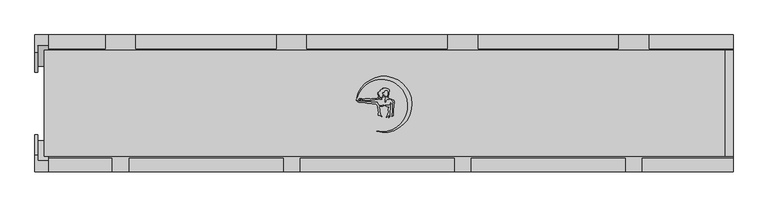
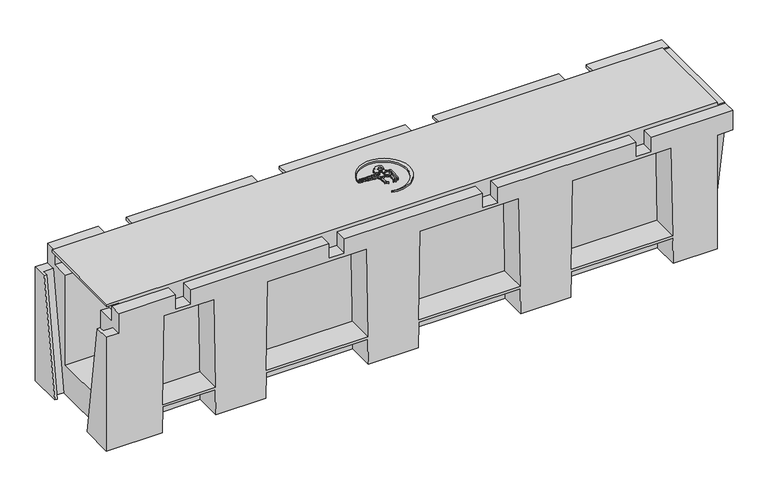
"""IFC4 building model written with IfcOpenShell, lengths in millimetres: cable carrier fitting geometry, Evotray with cover : Evotray type 1."""

from ifc_helpers import new_model, si_unit, point, frame, frame_2d, origin, place, context, project, spatial, polyline, circle_curve, trimmed, segment, composite_curve, outline, extrude, source, transform, mapped, element, save
from ifc_brep_helpers import plane_surface, cylinder_surface, revolved_surface, advanced_brep


def cable_carrier_fitting_8a8851dd(model_context):
    return source(origin(), model_context, "Body", "SolidModel", [
        extrude(outline(composite_curve([segment(polyline([(6.886285, 7.4637328), (8.3119761, 6.6406097), (7.6030447, 6.231308), (5.0381149, 6.231308), (2.5786216, 3.7718147), (2.5786216, 2.1881467), (1.5211076, 1.9047867), (1.1897405, 3.1414657), (1.5119619, 4.3440123), (1.5119619, 6.5708274), (2.9785026, 8.0373681), (2.5786216, 8.7299822), (1.5119619, 9.3458185), (0.65369, 9.841342), (-0.3394336, 10.8344656), (-0.3394336, 12.0845225), (0.4483607, 11.6296893), (1.5119619, 10.566088), (2.5786216, 9.9502518), (4.8913863, 9.9502518), (5.5232849, 10.5821504), (5.5232849, 12.1905551), (5.9291419, 12.89352), (6.1687119, 13.7876074), (6.1687119, 17.8830423), (5.5232849, 18.5284693), (1.5119619, 18.8794146), (0.7637978, 18.4474619), (0.3319493, 17.6994783), (0.1095558, 16.8694948), (-0.1631605, 15.3228433), (-0.7191823, 15.878865), (-1.2848381, 16.4445209), (-2.245373, 16.4445209), (-2.7198124, 15.6227677), (-2.7198124, 14.7978623), (-2.3177653, 14.1014963), (-1.5900706, 13.3738016), (-1.9867099, 11.8935234), (-2.3242099, 10.6339564), (-2.0214025, 8.91665), (-2.8221956, 8.7754486), (-4.5526409, 9.23912), (-5.7993501, 9.8204701), (-6.5526073, 10.1717197), (-8.1520559, 9.8896938), (-7.6844974, 10.6995287), (-6.0276764, 11.3025623)]), True, "CONTINUOUS"), segment(trimmed(circle_curve(frame_2d((-6.593804, 11.0306229)), 0.6280537), [point((-6.0276764, 11.3025623))], [point((-6.7493862, 11.639101))], True, "CARTESIAN"), True, "CONTINUOUS"), segment(polyline([(-6.7493862, 11.639101), (-8.6964013, 11.639101), (-8.1382232, 12.1972792), (-7.2874434, 12.5069377), (-6.4690039, 12.8048253)]), True, "CONTINUOUS"), segment(trimmed(circle_curve(frame_2d((-7.2073288, 12.8048253)), 0.7383249), [point((-6.4690039, 12.8048253))], [point((-7.2073288, 13.5431502))], True, "CARTESIAN"), True, "CONTINUOUS"), segment(polyline([(-7.2073288, 13.5431502), (-8.9150764, 13.5431502), (-9.306598, 14.2212855), (-7.4880059, 14.5419523), (-6.1916679, 15.0137808), (-6.8124206, 15.6345335), (-8.7756401, 15.6345335), (-8.2230577, 16.1871159), (-7.193225, 16.7816901), (-6.5185006, 17.4564145), (-5.7956833, 17.8737332), (-4.8206713, 18.4366567)]), True, "CONTINUOUS"), segment(trimmed(circle_curve(frame_2d((-5.0316567, 18.8020941)), 0.4219708), [point((-4.8206713, 18.4366567))], [point((-5.2426421, 19.1675315))], True, "CARTESIAN"), True, "CONTINUOUS"), segment(polyline([(-5.2426421, 19.1675315), (-4.6252454, 19.7849282), (-3.3225755, 20.2590613), (-2.3275189, 20.8335574), (-1.1959823, 21.0330779), (-1.5498081, 22.0052062), (3.4501919, 22.0052062), (4.4643658, 21.5322892), (5.5862207, 21.2316891), (6.6006668, 20.6459983), (7.7093433, 19.5373219), (7.7093433, 16.9713066), (7.2204261, 16.1244773), (7.2204261, 13.3924413), (6.7313912, 12.3437025), (6.3245893, 11.639101), (6.3245893, 9.7903367), (5.5232849, 9.3277034), (4.6900065, 9.1807739)]), True, "CONTINUOUS"), segment(trimmed(circle_curve(frame_2d((5.742958, 8.8986364)), 1.0900956), [point((4.6900065, 9.1807739))], [point((5.4608205, 7.8456849))], True, "CARTESIAN"), True, "CONTINUOUS"), segment(polyline([(5.4608205, 7.8456849), (6.886285, 7.4637328)]), True, "CONTINUOUS")], self_intersect=False)), frame((0.0, 0.0, 235.0), z_axis=(0.0, 0.0, 1.0), x_axis=(1.0, 0.0, 0.0)), (0.0, 0.0, 1.0), 2.5),
        extrude(outline(polyline([(11.4429943, 4.6087301), (9.5203503, 5.7187691), (10.7095904, 6.0374251), (12.0844458, 5.5370186), (14.2105949, 4.3094858), (14.6222444, 2.7731892), (14.6222444, 0.0), (14.2038635, -2.372756), (13.8777263, -11.712102), (13.8777263, -14.5669989), (13.3180784, -17.7409202), (12.1590543, -18.8999443), (11.2615657, -18.8999443), (11.9364399, -17.0457427), (12.2453954, -15.2935685), (12.7598527, -12.3759364), (12.7598527, -1.1364717), (13.2014873, 1.3681627), (12.6590105, 3.3927139), (11.4429943, 4.6087301)])), frame((0.0, 0.0, 235.0), z_axis=(0.0, 0.0, 1.0), x_axis=(1.0, 0.0, 0.0)), (0.0, 0.0, 1.0), 2.5),
        extrude(outline(composite_curve([segment(polyline([(4.0147453, -2.9992906), (5.9969468, -2.9992906), (7.4652111, -2.740396), (8.7704931, -1.435114), (9.950602, 1.0956376), (10.431554, -0.2257671), (9.8088462, -1.5611682), (9.1382387, -2.9992906), (9.1382387, -8.9574865), (8.7098596, -11.3869452), (8.7098596, -19.8680871), (7.2612009, -21.3167458), (6.6884637, -20.7440086), (7.3671837, -19.0016384), (7.6253291, -17.5376234)]), True, "CONTINUOUS"), segment(trimmed(circle_curve(frame_2d((7.210681, -17.5376234)), 0.414648), [point((7.6253291, -17.5376234))], [point((6.796033, -17.5376234))], True, "CARTESIAN"), True, "CONTINUOUS"), segment(polyline([(6.796033, -17.5376234), (6.0303442, -18.3033121), (4.7634977, -19.813081), (4.1079887, -20.4685901), (3.3156675, -20.0991246), (5.4798874, -16.8905367), (5.785797, -15.1556368), (6.6278549, -13.3498378), (6.8850624, -11.8911416), (6.0965537, -10.5254044), (6.0965537, -7.7588572), (7.4197021, -5.8893005)]), True, "CONTINUOUS"), segment(trimmed(circle_curve(frame_2d((7.0825972, -5.6507199)), 0.4129897), [point((7.4197021, -5.8893005))], [point((6.8440166, -5.3136149))], True, "CARTESIAN"), True, "CONTINUOUS"), segment(polyline([(6.8440166, -5.3136149), (4.8402016, -4.9602882), (3.396305, -4.2869882), (1.5763044, -3.438308), (1.5763044, -2.5693277), (4.0147453, -2.9992906)]), True, "CONTINUOUS")], self_intersect=False)), frame((0.0, 0.0, 235.0), z_axis=(0.0, 0.0, 1.0), x_axis=(1.0, 0.0, 0.0)), (0.0, 0.0, 1.0), 2.5),
        extrude(outline(composite_curve([segment(polyline([(-38.3968506, 3.809904), (-36.6611767, 3.000546), (-32.4747028, 3.000546), (-31.4039817, 3.2874448), (-30.0774441, 3.2874448), (-28.3563353, 3.000546), (-26.3500132, 2.4629536), (-25.1968251, 2.1539578), (-19.5049184, 2.1539578), (-16.8884225, 1.7178031), (-15.5608599, 1.3620838), (-9.9466176, 1.3620838)]), True, "CONTINUOUS"), segment(trimmed(circle_curve(frame_2d((-1.0930514, 4.2676903)), 9.3181642), [point((-9.9466176, 1.3620838))], [point((-6.5923499, -3.2546697))], True, "CARTESIAN"), True, "CONTINUOUS"), segment(polyline([(-6.5923499, -3.2546697), (-3.540565, -3.2546697), (-1.5059865, -3.0766672), (-0.3669825, -2.5455409), (-0.6245024, -3.5066183), (-1.5685967, -4.0516914), (-2.5272836, -4.4006249), (-5.7619887, -4.2876665), (-6.9506832, -4.720316), (-7.3596776, -5.5974072), (-7.284597, -6.4555824), (-6.8057129, -7.2850341), (-6.0851074, -8.0056396), (-6.0851074, -9.7618521), (-6.4504076, -10.7655063), (-6.306141, -12.4144812), (-5.8010487, -14.2995114), (-5.6529296, -15.9925206), (-3.2815945, -18.7204295), (-3.4902715, -19.9038953), (-6.0851074, -17.3090594), (-7.047939, -17.5670493), (-8.4511152, -17.3196315), (-8.1755548, -16.5625356), (-8.1755548, -14.2884801), (-7.999951, -13.2925813), (-8.1755548, -11.2854205), (-8.5512172, -10.2532964), (-8.5512172, -8.4281135), (-8.9975529, -7.4709435), (-8.9975529, -5.093194), (-9.2459932, -4.1660024), (-9.6979635, -3.3831668), (-10.1466753, -2.6059753), (-10.7611176, -1.9915329), (-11.1949689, -1.0611358), (-14.7959071, -0.9353883), (-17.1400591, -0.5446317), (-19.1726524, 0.0), (-22.514272, 0.3512184), (-24.5938851, 0.3512184), (-25.9361197, 0.7108691), (-27.4597147, 1.1191151), (-28.802968, 1.7454844), (-29.7973567, 1.7454844), (-32.4487971, 1.7454844), (-33.5610412, 1.4474595), (-35.4243232, 1.6432983), (-36.913398, 1.8915184), (-38.5867056, 2.6717946), (-39.5626319, 3.6477209), (-40.201715, 4.286804), (-40.201715, 5.0736837), (-38.3968506, 3.809904)]), True, "CONTINUOUS")], self_intersect=False)), frame((0.0, 0.0, 235.0), z_axis=(0.0, 0.0, 1.0), x_axis=(1.0, 0.0, 0.0)), (0.0, 0.0, 1.0), 2.5),
        extrude(outline(composite_curve([segment(polyline([(-35.8946179, 5.3538761), (-34.8713036, 4.7630653), (-36.5989641, 5.2827362), (-36.9291106, 6.2002999), (-36.0907862, 7.0386243), (-33.2179676, 7.0386243), (-32.2335306, 6.640886), (-31.1430419, 6.2002999), (-30.3448483, 5.7394627), (-29.0846182, 5.7394627), (-28.2635931, 6.0348738), (-27.3783409, 6.5459745), (-20.9646359, 6.5459745), (-20.1090613, 6.2002999), (-19.0386593, 6.2002999), (-18.0779391, 6.5459745), (-16.8987824, 6.5459745), (-16.1804433, 6.9607077), (-10.7677881, 6.9607077), (-10.0075074, 7.2342626), (-8.7653494, 7.2342626), (-8.1895809, 7.8100311), (-6.2320175, 7.8100311), (-4.9440164, 7.2896449), (-3.9321, 6.7054147), (-3.1276589, 6.3803994)]), True, "CONTINUOUS"), segment(trimmed(circle_curve(frame_2d((-3.5349913, 6.2158265)), 0.4393221), [point((-3.1276589, 6.3803994))], [point((-3.6995642, 5.8084941))], False, "CARTESIAN"), True, "CONTINUOUS"), segment(polyline([(-3.6995642, 5.8084941), (-4.7152929, 6.2188751), (-6.0269507, 6.2188751), (-7.2973806, 6.4428862), (-8.109405, 6.1507135), (-9.252379, 5.7394627), (-12.5965769, 5.7394627), (-13.3876503, 5.2827362), (-16.9549705, 5.2827362), (-17.8378329, 4.7730154), (-27.8378329, 4.7730154), (-30.448497, 4.5446119), (-34.1370246, 6.0348738), (-36.2877922, 6.0348738), (-35.8946179, 5.3538761)]), True, "CONTINUOUS")], self_intersect=False)), frame((0.0, 0.0, 235.0), z_axis=(0.0, 0.0, 1.0), x_axis=(1.0, 0.0, 0.0)), (0.0, 0.0, 1.0), 2.5),
        extrude(outline(composite_curve([segment(trimmed(circle_curve(frame_2d((-3.3143579, -3.3159585)), 38.3616107), [point((-10.7221947, -40.9555272))], [point((-40.0258932, 7.814017))], True, "CARTESIAN"), True, "CONTINUOUS"), segment(trimmed(circle_curve(frame_2d((-0.1849572, -1.4356248)), 40.900563), [point((-40.0258932, 7.814017))], [point((-10.7221947, -40.9555272))], False, "CARTESIAN"), True, "CONTINUOUS")], self_intersect=False)), frame((0.0, 0.0, 235.0), z_axis=(0.0, 0.0, 1.0), x_axis=(1.0, 0.0, 0.0)), (0.0, 0.0, 1.0), 2.5),
        advanced_brep(
        [(510.0, 77.5, 205.0), (510.0, -77.5, 205.0), (-476.0, -77.5, 205.0), (-476.0, 77.5, 205.0), (-496.0, 77.5, 230.0), (-496.0, -77.5, 230.0), (-496.0, -77.5, 234.0), (-496.0, 77.5, 234.0), (510.0, -77.5, 230.0), (498.0, -77.5, 230.0), (498.0, -77.5, 234.0), (-476.0, -77.5, 230.0), (510.0, 77.5, 230.0), (-476.0, 77.5, 230.0), (498.0, 77.5, 234.0), (498.0, 77.5, 230.0)],
        [
            (0, 1),
            (1, 2),
            (2, 3),
            (3, 0),
            (4, 5),
            (5, 6),
            (6, 7, circle_curve(frame((-496.0, 0.0, -748.995295), z_axis=(-1.0, 0.0, 0.0), x_axis=(0.0, 1.0, 0.0)), 986.0456379)),
            (7, 4),
            (1, 8),
            (8, 9),
            (9, 10),
            (10, 6),
            (5, 11),
            (11, 2),
            (0, 12),
            (12, 8),
            (3, 13),
            (13, 4),
            (7, 14),
            (14, 15),
            (15, 12),
            (13, 11),
            (15, 9),
            (14, 10, circle_curve(frame((498.0, 0.0, -748.995295), z_axis=(1.0, 0.0, 0.0), x_axis=(0.0, 1.0, 0.0)), 986.0456379)),
        ],
        [
            plane_surface(frame((-496.0, 77.5, 205.0), z_axis=(0.0, 0.0, -1.0), x_axis=(0.0, 1.0, 0.0))),
            plane_surface(frame((-496.0, 77.5, 246.0), z_axis=(-1.0, 0.0, 0.0), x_axis=(0.0, 0.0, -1.0))),
            plane_surface(frame((-496.0, -77.5, 246.0), z_axis=(0.0, -1.0, 0.0), x_axis=(0.0, 0.0, -1.0))),
            plane_surface(frame((510.0, -77.5, 246.0), z_axis=(1.0, 0.0, 0.0), x_axis=(0.0, 0.0, -1.0))),
            plane_surface(frame((510.0, 77.5, 246.0), z_axis=(0.0, 1.0, 0.0), x_axis=(0.0, 0.0, -1.0))),
            plane_surface(frame((-496.0, 77.5, 230.0), z_axis=(0.0, 0.0, -1.0), x_axis=(-1.0, 0.0, 0.0))),
            plane_surface(frame((-476.0, -77.5, 230.0), z_axis=(-1.0, 0.0, 0.0), x_axis=(0.0, 0.0, -1.0))),
            plane_surface(frame((498.0, 77.5, 230.0), z_axis=(0.0, 0.0, 1.0), x_axis=(0.0, 1.0, 0.0))),
            plane_surface(frame((498.0, 77.5, 246.0), z_axis=(1.0, 0.0, 0.0), x_axis=(0.0, 0.0, -1.0))),
            cylinder_surface(frame((-496.0, 0.0, -748.995295), z_axis=(-1.0, 0.0, 0.0), x_axis=(0.0, 1.0, 0.0)), 986.0456379),
        ],
        [
            (0, [[1, 2, 3, 4]]),
            (1, [[5, 6, 7, 8]]),
            (2, [[-2, 9, 10, 11, 12, -6, 13, 14]]),
            (3, [[-1, 15, 16, -9]]),
            (4, [[-4, 17, 18, -8, 19, 20, 21, -15]]),
            (5, [[22, -13, -5, -18]]),
            (6, [[-22, -17, -3, -14]]),
            (7, [[23, -10, -16, -21]]),
            (8, [[-23, -20, 24, -11]]),
            (9, [[-7, -12, -24, -19]]),
        ],
    ),
        advanced_brep(
        [(510.0, 80.0, 230.0), (510.0, 100.0, 230.0), (387.5, 100.0, 230.0), (387.5, 80.0, 230.0), (510.0, -100.0, 230.0), (510.0, -80.0, 230.0), (377.5, -80.0, 230.0), (377.5, -100.0, 230.0), (-157.5, 100.0, 230.0), (-362.5, 100.0, 230.0), (-362.5, 80.0, 230.0), (-157.5, 80.0, 230.0), (92.5, 100.0, 230.0), (-112.5, 100.0, 230.0), (-112.5, 80.0, 230.0), (92.5, 80.0, 230.0), (342.5, 100.0, 230.0), (137.5, 100.0, 230.0), (137.5, 80.0, 230.0), (342.5, 80.0, 230.0), (-490.0, 80.0, 230.0), (-407.5, 80.0, 230.0), (-407.5, 100.0, 230.0), (-490.0, 100.0, 230.0), (-490.0, -80.0, 230.0), (-490.0, -100.0, 230.0), (-397.5, -100.0, 230.0), (-397.5, -80.0, 230.0), (-147.5, -80.0, 230.0), (-372.5, -80.0, 230.0), (-372.5, -100.0, 230.0), (-147.5, -100.0, 230.0), (102.5, -80.0, 230.0), (-122.5, -80.0, 230.0), (-122.5, -100.0, 230.0), (102.5, -100.0, 230.0), (352.5, -80.0, 230.0), (127.5, -80.0, 230.0), (127.5, -100.0, 230.0), (352.5, -100.0, 230.0), (-510.0, 45.4, 0.0), (-510.0, 100.0, 0.0), (-381.1, 100.0, 0.0), (-381.1, 56.0, 0.0), (-214.1, 56.0, 0.0), (-214.1, 100.0, 0.0), (-132.8, 100.0, 0.0), (-132.8, 56.0, 0.0), (34.2, 56.0, 0.0), (34.2, 100.0, 0.0), (115.5, 100.0, 0.0), (115.5, 56.0, 0.0), (282.5, 56.0, 0.0), (282.5, 100.0, 0.0), (363.8, 100.0, 0.0), (363.8, 56.0, 0.0), (450.8, 56.0, 0.0), (450.8, 100.0, 0.0), (485.0, 100.0, 0.0), (485.0, -100.0, 0.0), (413.1, -100.0, 0.0), (413.1, -56.0, 0.0), (246.1, -56.0, 0.0), (246.1, -100.0, 0.0), (164.8, -100.0, 0.0), (164.8, -56.0, 0.0), (-2.2, -56.0, 0.0), (-2.2, -100.0, 0.0), (-83.5, -100.0, 0.0), (-83.5, -56.0, 0.0), (-250.5, -56.0, 0.0), (-250.5, -100.0, 0.0), (-331.8, -100.0, 0.0), (-331.8, -56.0, 0.0), (-418.8, -56.0, 0.0), (-418.8, -100.0, 0.0), (-510.0, -100.0, 0.0), (-510.0, -45.5, 0.0), (-506.0, -45.5, 0.0), (-506.0, -54.6, 0.0), (-490.0, -54.6, 0.0), (-490.0, 54.6, 0.0), (-506.0, 54.6, 0.0), (-506.0, 45.4, 0.0), (-451.0, -27.5, 0.0), (-429.0, -27.5, 0.0), (-206.0, 27.5, 0.0), (-184.0, 27.5, 0.0), (449.0, 27.5, 0.0), (471.0, 27.5, 0.0), (204.0, -27.5, 0.0), (226.0, -27.5, 0.0), (497.0, 45.4, 0.0), (510.0, 45.4, 0.0), (510.0, -45.4, 0.0), (497.0, -45.4, 0.0), (510.0, 100.0, 196.0), (485.0, 100.0, 196.0), (450.0, 100.0, 44.0), (364.6, 100.0, 44.0), (281.7, 100.0, 44.0), (116.3, 100.0, 44.0), (33.4, 100.0, 44.0), (-132.0, 100.0, 44.0), (-214.9, 100.0, 44.0), (-380.3, 100.0, 44.0), (-510.0, 100.0, 196.0), (-490.0, 100.0, 196.0), (-407.5, 100.0, 205.0), (-337.5, 100.0, 205.0), (-337.5, 100.0, 225.0), (-362.5, 100.0, 225.0), (-157.5, 100.0, 205.0), (-87.5, 100.0, 205.0), (-87.5, 100.0, 225.0), (-112.5, 100.0, 225.0), (92.5, 100.0, 205.0), (162.5, 100.0, 205.0), (162.5, 100.0, 225.0), (137.5, 100.0, 225.0), (342.5, 100.0, 205.0), (412.5, 100.0, 205.0), (412.5, 100.0, 225.0), (387.5, 100.0, 225.0), (447.3, 100.0, 200.0), (367.3, 100.0, 200.0), (364.6, 100.0, 48.0), (450.0, 100.0, 48.0), (279.0, 100.0, 200.0), (119.0, 100.0, 200.0), (116.3, 100.0, 48.0), (281.7, 100.0, 48.0), (30.7, 100.0, 200.0), (-129.3, 100.0, 200.0), (-132.0, 100.0, 48.0), (33.4, 100.0, 48.0), (-217.6, 100.0, 200.0), (-377.6, 100.0, 200.0), (-380.3, 100.0, 48.0), (-214.9, 100.0, 48.0), (-510.0, 74.8852174, 196.0), (-510.0, -100.0, 196.0), (-510.0, -74.9, 196.0), (510.0, -100.0, 196.0), (377.5, -100.0, 205.0), (352.5, -100.0, 205.0), (127.5, -100.0, 205.0), (102.5, -100.0, 205.0), (-122.5, -100.0, 205.0), (-147.5, -100.0, 205.0), (-372.5, -100.0, 205.0), (-397.5, -100.0, 205.0), (-490.0, -100.0, 196.0), (-418.0, -100.0, 44.0), (-332.6, -100.0, 44.0), (-249.7, -100.0, 44.0), (-84.3, -100.0, 44.0), (-1.4, -100.0, 44.0), (164.0, -100.0, 44.0), (246.9, -100.0, 44.0), (412.3, -100.0, 44.0), (485.0, -100.0, 196.0), (-415.3, -100.0, 200.0), (-335.3, -100.0, 200.0), (-332.6, -100.0, 48.0), (-418.0, -100.0, 48.0), (-247.0, -100.0, 200.0), (-87.0, -100.0, 200.0), (-84.3, -100.0, 48.0), (-249.7, -100.0, 48.0), (1.3, -100.0, 200.0), (161.3, -100.0, 200.0), (164.0, -100.0, 48.0), (-1.4, -100.0, 48.0), (249.6, -100.0, 200.0), (409.6, -100.0, 200.0), (412.3, -100.0, 48.0), (246.9, -100.0, 48.0), (510.0, 80.0, 205.0), (510.0, 50.0, 205.0), (510.0, 50.0, 50.0), (510.0, -50.0, 50.0), (510.0, -50.0, 205.0), (510.0, -80.0, 205.0), (510.0, -80.0, 196.0), (510.0, 80.0, 196.0), (-506.0, 74.8852174, 196.0), (-506.0, -74.9, 196.0), (-490.0, 84.0, 196.0), (-506.0, 84.0, 196.0), (-506.0, -84.0852174, 196.0), (-490.0, -84.0852174, 196.0), (-490.0, -80.0, 205.0), (-490.0, -77.5, 205.0), (-490.0, -50.0, 205.0), (-490.0, -50.0, 50.0), (-490.0, 50.0, 50.0), (-490.0, 50.0, 205.0), (-490.0, 77.5, 205.0), (-490.0, 80.0, 205.0), (412.5, 80.0, 205.0), (342.5, 80.0, 205.0), (162.5, 80.0, 205.0), (92.5, 80.0, 205.0), (-87.5, 80.0, 205.0), (-157.5, 80.0, 205.0), (-337.5, 80.0, 205.0), (-407.5, 80.0, 205.0), (-476.0, 50.0, 205.0), (-476.0, -50.0, 205.0), (-397.5, -80.0, 205.0), (-372.5, -80.0, 205.0), (-147.5, -80.0, 205.0), (-122.5, -80.0, 205.0), (102.5, -80.0, 205.0), (127.5, -80.0, 205.0), (352.5, -80.0, 205.0), (377.5, -80.0, 205.0), (-362.5, 80.0, 225.0), (-337.5, 80.0, 225.0), (-112.5, 80.0, 225.0), (-87.5, 80.0, 225.0), (137.5, 80.0, 225.0), (162.5, 80.0, 225.0), (387.5, 80.0, 225.0), (412.5, 80.0, 225.0), (-429.0, -27.5, 50.0), (-451.0, -27.5, 50.0), (-184.0, 27.5, 50.0), (-206.0, 27.5, 50.0), (471.0, 27.5, 50.0), (449.0, 27.5, 50.0), (226.0, -27.5, 50.0), (204.0, -27.5, 50.0), (497.0, 80.0, 196.0), (497.0, 77.6, 196.0), (485.0, 77.6, 196.0), (497.0, -80.0, 196.0), (485.0, -77.6, 196.0), (497.0, -77.6, 196.0), (497.0, -48.2959184, 30.0), (497.0, 48.2959184, 30.0), (485.0, -48.2959184, 30.0), (485.0, 48.2959184, 30.0), (-418.0, -56.0, 44.0), (-332.6, -56.0, 44.0), (-335.3, -56.0, 200.0), (-415.3, -56.0, 200.0), (-332.6, -56.0, 48.0), (-418.0, -56.0, 48.0), (450.0, 56.0, 44.0), (364.6, 56.0, 44.0), (447.3, 56.0, 200.0), (367.3, 56.0, 200.0), (364.6, 56.0, 48.0), (450.0, 56.0, 48.0), (-84.3, -56.0, 44.0), (-249.7, -56.0, 44.0), (-87.0, -56.0, 200.0), (-247.0, -56.0, 200.0), (-84.3, -56.0, 48.0), (-249.7, -56.0, 48.0), (164.0, -56.0, 44.0), (-1.4, -56.0, 44.0), (161.3, -56.0, 200.0), (1.3, -56.0, 200.0), (164.0, -56.0, 48.0), (-1.4, -56.0, 48.0), (412.3, -56.0, 44.0), (246.9, -56.0, 44.0), (409.6, -56.0, 200.0), (249.6, -56.0, 200.0), (412.3, -56.0, 48.0), (246.9, -56.0, 48.0), (281.7, 56.0, 44.0), (116.3, 56.0, 44.0), (279.0, 56.0, 200.0), (119.0, 56.0, 200.0), (116.3, 56.0, 48.0), (281.7, 56.0, 48.0), (33.4, 56.0, 44.0), (-132.0, 56.0, 44.0), (30.7, 56.0, 200.0), (-129.3, 56.0, 200.0), (-132.0, 56.0, 48.0), (33.4, 56.0, 48.0), (-214.9, 56.0, 44.0), (-380.3, 56.0, 44.0), (-217.6, 56.0, 200.0), (-377.6, 56.0, 200.0), (-380.3, 56.0, 48.0), (-214.9, 56.0, 48.0)],
        [
            (0, 1),
            (1, 2),
            (2, 3),
            (3, 0),
            (4, 5),
            (5, 6),
            (6, 7),
            (7, 4),
            (8, 9),
            (9, 10),
            (10, 11),
            (11, 8),
            (12, 13),
            (13, 14),
            (14, 15),
            (15, 12),
            (16, 17),
            (17, 18),
            (18, 19),
            (19, 16),
            (20, 21),
            (21, 22),
            (22, 23),
            (23, 20),
            (24, 25),
            (25, 26),
            (26, 27),
            (27, 24),
            (28, 29),
            (29, 30),
            (30, 31),
            (31, 28),
            (32, 33),
            (33, 34),
            (34, 35),
            (35, 32),
            (36, 37),
            (37, 38),
            (38, 39),
            (39, 36),
            (40, 41),
            (41, 42),
            (42, 43),
            (43, 44),
            (44, 45),
            (45, 46),
            (46, 47),
            (47, 48),
            (48, 49),
            (49, 50),
            (50, 51),
            (51, 52),
            (52, 53),
            (53, 54),
            (54, 55),
            (55, 56),
            (56, 57),
            (57, 58),
            (58, 59),
            (59, 60),
            (60, 61),
            (61, 62),
            (62, 63),
            (63, 64),
            (64, 65),
            (65, 66),
            (66, 67),
            (67, 68),
            (68, 69),
            (69, 70),
            (70, 71),
            (71, 72),
            (72, 73),
            (73, 74),
            (74, 75),
            (75, 76),
            (76, 77),
            (77, 78),
            (78, 79),
            (79, 80),
            (80, 81),
            (81, 82),
            (82, 83),
            (83, 40),
            (84, 85, circle_curve(frame((-440.0, -27.5, 0.0), z_axis=(0.0, 0.0, 1.0), x_axis=(1.0, 0.0, 0.0)), 11.0)),
            (85, 84, circle_curve(frame((-440.0, -27.5, 0.0), z_axis=(0.0, 0.0, 1.0), x_axis=(1.0, 0.0, 0.0)), 11.0)),
            (86, 87, circle_curve(frame((-195.0, 27.5, 0.0), z_axis=(0.0, 0.0, 1.0), x_axis=(1.0, 0.0, 0.0)), 11.0)),
            (87, 86, circle_curve(frame((-195.0, 27.5, 0.0), z_axis=(0.0, 0.0, 1.0), x_axis=(1.0, 0.0, 0.0)), 11.0)),
            (88, 89, circle_curve(frame((460.0, 27.5, 0.0), z_axis=(0.0, 0.0, 1.0), x_axis=(1.0, 0.0, 0.0)), 11.0)),
            (89, 88, circle_curve(frame((460.0, 27.5, 0.0), z_axis=(0.0, 0.0, 1.0), x_axis=(1.0, 0.0, 0.0)), 11.0)),
            (90, 91, circle_curve(frame((215.0, -27.5, 0.0), z_axis=(0.0, 0.0, 1.0), x_axis=(1.0, 0.0, 0.0)), 11.0)),
            (91, 90, circle_curve(frame((215.0, -27.5, 0.0), z_axis=(0.0, 0.0, 1.0), x_axis=(1.0, 0.0, 0.0)), 11.0)),
            (92, 93),
            (93, 94),
            (94, 95),
            (95, 92),
            (1, 96),
            (96, 97),
            (97, 58),
            (57, 98),
            (98, 99),
            (99, 54),
            (53, 100),
            (100, 101),
            (101, 50),
            (49, 102),
            (102, 103),
            (103, 46),
            (45, 104),
            (104, 105),
            (105, 42),
            (41, 106),
            (106, 107),
            (107, 23),
            (22, 108),
            (108, 109),
            (109, 110),
            (110, 111),
            (111, 9),
            (8, 112),
            (112, 113),
            (113, 114),
            (114, 115),
            (115, 13),
            (12, 116),
            (116, 117),
            (117, 118),
            (118, 119),
            (119, 17),
            (16, 120),
            (120, 121),
            (121, 122),
            (122, 123),
            (123, 2),
            (124, 125),
            (125, 126),
            (126, 127),
            (127, 124),
            (128, 129),
            (129, 130),
            (130, 131),
            (131, 128),
            (132, 133),
            (133, 134),
            (134, 135),
            (135, 132),
            (136, 137),
            (137, 138),
            (138, 139),
            (139, 136),
            (40, 140),
            (140, 106),
            (76, 141),
            (141, 142),
            (142, 77),
            (143, 4),
            (7, 144),
            (144, 145),
            (145, 39),
            (38, 146),
            (146, 147),
            (147, 35),
            (34, 148),
            (148, 149),
            (149, 31),
            (30, 150),
            (150, 151),
            (151, 26),
            (25, 152),
            (152, 141),
            (75, 153),
            (153, 154),
            (154, 72),
            (71, 155),
            (155, 156),
            (156, 68),
            (67, 157),
            (157, 158),
            (158, 64),
            (63, 159),
            (159, 160),
            (160, 60),
            (59, 161),
            (161, 143),
            (162, 163),
            (163, 164),
            (164, 165),
            (165, 162),
            (166, 167),
            (167, 168),
            (168, 169),
            (169, 166),
            (170, 171),
            (171, 172),
            (172, 173),
            (173, 170),
            (174, 175),
            (175, 176),
            (176, 177),
            (177, 174),
            (0, 178),
            (178, 179),
            (179, 180),
            (180, 181),
            (181, 182),
            (182, 183),
            (183, 5),
            (143, 184),
            (184, 94),
            (93, 185),
            (185, 96),
            (83, 186),
            (186, 140),
            (142, 187),
            (187, 78),
            (81, 188),
            (188, 189),
            (189, 82),
            (187, 190),
            (190, 79),
            (189, 186),
            (190, 191),
            (191, 80),
            (191, 152),
            (24, 192),
            (192, 193),
            (193, 194),
            (194, 195),
            (195, 196),
            (196, 197),
            (197, 198),
            (198, 199),
            (199, 20),
            (107, 188),
            (178, 200),
            (200, 121),
            (120, 201),
            (201, 202),
            (202, 117),
            (116, 203),
            (203, 204),
            (204, 113),
            (112, 205),
            (205, 206),
            (206, 109),
            (108, 207),
            (207, 199),
            (197, 208),
            (208, 179),
            (182, 209),
            (209, 194),
            (192, 210),
            (210, 151),
            (150, 211),
            (211, 212),
            (212, 149),
            (148, 213),
            (213, 214),
            (214, 147),
            (146, 215),
            (215, 216),
            (216, 145),
            (144, 217),
            (217, 183),
            (10, 218),
            (218, 219),
            (219, 206),
            (205, 11),
            (14, 220),
            (220, 221),
            (221, 204),
            (203, 15),
            (18, 222),
            (222, 223),
            (223, 202),
            (201, 19),
            (3, 224),
            (224, 225),
            (225, 200),
            (207, 21),
            (28, 212),
            (211, 29),
            (32, 214),
            (213, 33),
            (36, 216),
            (215, 37),
            (217, 6),
            (27, 210),
            (180, 196),
            (195, 181),
            (226, 227, circle_curve(frame((-440.0, -27.5, 50.0), z_axis=(0.0, 0.0, -1.0), x_axis=(1.0, 0.0, 0.0)), 11.0)),
            (227, 226, circle_curve(frame((-440.0, -27.5, 50.0), z_axis=(0.0, 0.0, -1.0), x_axis=(1.0, 0.0, 0.0)), 11.0)),
            (228, 229, circle_curve(frame((-195.0, 27.5, 50.0), z_axis=(0.0, 0.0, -1.0), x_axis=(1.0, 0.0, 0.0)), 11.0)),
            (229, 228, circle_curve(frame((-195.0, 27.5, 50.0), z_axis=(0.0, 0.0, -1.0), x_axis=(1.0, 0.0, 0.0)), 11.0)),
            (230, 231, circle_curve(frame((460.0, 27.5, 50.0), z_axis=(0.0, 0.0, -1.0), x_axis=(1.0, 0.0, 0.0)), 11.0)),
            (231, 230, circle_curve(frame((460.0, 27.5, 50.0), z_axis=(0.0, 0.0, -1.0), x_axis=(1.0, 0.0, 0.0)), 11.0)),
            (232, 233, circle_curve(frame((215.0, -27.5, 50.0), z_axis=(0.0, 0.0, -1.0), x_axis=(1.0, 0.0, 0.0)), 11.0)),
            (233, 232, circle_curve(frame((215.0, -27.5, 50.0), z_axis=(0.0, 0.0, -1.0), x_axis=(1.0, 0.0, 0.0)), 11.0)),
            (185, 234),
            (234, 235),
            (235, 236),
            (236, 97),
            (92, 234),
            (237, 184),
            (161, 238),
            (238, 239),
            (239, 237),
            (237, 95),
            (239, 240),
            (240, 241),
            (241, 235),
            (238, 242),
            (242, 240),
            (236, 243),
            (243, 242),
            (241, 243),
            (226, 85),
            (84, 227),
            (228, 87),
            (86, 229),
            (230, 89),
            (88, 231),
            (232, 91),
            (90, 233),
            (111, 218),
            (115, 220),
            (119, 222),
            (123, 224),
            (110, 219),
            (114, 221),
            (118, 223),
            (122, 225),
            (153, 244),
            (244, 245),
            (245, 154),
            (245, 73),
            (244, 74),
            (246, 163),
            (162, 247),
            (247, 246),
            (248, 249),
            (249, 165),
            (164, 248),
            (247, 249),
            (248, 246),
            (250, 251),
            (251, 99),
            (98, 250),
            (56, 250),
            (251, 55),
            (124, 252),
            (252, 253),
            (253, 125),
            (126, 254),
            (254, 255),
            (255, 127),
            (253, 254),
            (252, 255),
            (256, 156),
            (155, 257),
            (257, 256),
            (257, 70),
            (69, 256),
            (258, 167),
            (166, 259),
            (259, 258),
            (260, 261),
            (261, 169),
            (168, 260),
            (259, 261),
            (260, 258),
            (262, 158),
            (157, 263),
            (263, 262),
            (263, 66),
            (65, 262),
            (264, 171),
            (170, 265),
            (265, 264),
            (266, 267),
            (267, 173),
            (172, 266),
            (265, 267),
            (266, 264),
            (268, 160),
            (159, 269),
            (269, 268),
            (269, 62),
            (61, 268),
            (270, 175),
            (174, 271),
            (271, 270),
            (272, 273),
            (273, 177),
            (176, 272),
            (271, 273),
            (272, 270),
            (100, 274),
            (274, 275),
            (275, 101),
            (275, 51),
            (274, 52),
            (128, 276),
            (276, 277),
            (277, 129),
            (130, 278),
            (278, 279),
            (279, 131),
            (277, 278),
            (276, 279),
            (102, 280),
            (280, 281),
            (281, 103),
            (281, 47),
            (280, 48),
            (132, 282),
            (282, 283),
            (283, 133),
            (134, 284),
            (284, 285),
            (285, 135),
            (283, 284),
            (282, 285),
            (104, 286),
            (286, 287),
            (287, 105),
            (287, 43),
            (286, 44),
            (136, 288),
            (288, 289),
            (289, 137),
            (138, 290),
            (290, 291),
            (291, 139),
            (289, 290),
            (288, 291),
        ],
        [
            plane_surface(frame((-510.0, 100.0, 230.0), z_axis=(0.0, 0.0, 1.0), x_axis=(-1.0, 0.0, 0.0))),
            plane_surface(frame((-510.0, 100.0, 0.0), z_axis=(0.0, 0.0, -1.0), x_axis=(1.0, 0.0, 0.0))),
            plane_surface(frame((510.0, 100.0, 230.0), z_axis=(0.0, 1.0, 0.0), x_axis=(0.0, 0.0, -1.0))),
            plane_surface(frame((-510.0, 100.0, 230.0), z_axis=(-1.0, 0.0, 0.0), x_axis=(0.0, 0.0, -1.0))),
            plane_surface(frame((-510.0, -100.0, 230.0), z_axis=(0.0, -1.0, 0.0), x_axis=(0.0, 0.0, -1.0))),
            plane_surface(frame((510.0, -100.0, 230.0), z_axis=(1.0, 0.0, 0.0), x_axis=(0.0, 0.0, -1.0))),
            plane_surface(frame((-508.0, 45.4, 0.0), z_axis=(0.0, -0.9888731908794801, 0.14876092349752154), x_axis=(-1.0, 0.0, 0.0))),
            plane_surface(frame((-508.0, -45.5, 0.0), z_axis=(0.0, 0.9889363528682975, 0.14834045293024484), x_axis=(1.0, 0.0, 0.0))),
            plane_surface(frame((-498.0, 54.6, 0.0), z_axis=(0.0, -0.9889363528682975, 0.1483404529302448), x_axis=(-1.0, 0.0, 0.0))),
            plane_surface(frame((-506.0, 0.0, 0.0), z_axis=(1.0, 0.0, 0.0), x_axis=(0.0, -1.0, 0.0))),
            plane_surface(frame((-498.0, -54.6, 0.0), z_axis=(0.0, 0.9888731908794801, 0.1487609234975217), x_axis=(1.0, 0.0, 0.0))),
            plane_surface(frame((-490.0, 0.0, 0.0), z_axis=(-1.0, 0.0, 0.0), x_axis=(0.0, 1.0, 0.0))),
            plane_surface(frame((-490.0, 80.0, 205.0), z_axis=(0.0, 0.0, 1.0), x_axis=(1.0, 0.0, 0.0))),
            plane_surface(frame((510.0, 80.0, 230.0), z_axis=(0.0, -1.0, 0.0), x_axis=(0.0, 0.0, -1.0))),
            plane_surface(frame((-490.0, -80.0, 230.0), z_axis=(0.0, 1.0, 0.0), x_axis=(0.0, 0.0, -1.0))),
            plane_surface(frame((-490.0, 50.0, 50.0), z_axis=(0.0, 0.0, 1.0), x_axis=(1.0, 0.0, 0.0))),
            plane_surface(frame((510.0, 50.0, 205.0), z_axis=(0.0, -1.0, 0.0), x_axis=(0.0, 0.0, -1.0))),
            plane_surface(frame((-490.0, -50.0, 205.0), z_axis=(0.0, 1.0, 0.0), x_axis=(0.0, 0.0, -1.0))),
            plane_surface(frame((503.5, 90.0, 196.0), z_axis=(0.0, 0.0, -1.0), x_axis=(0.0, -1.0, 0.0))),
            plane_surface(frame((503.5, 45.4, 0.0), z_axis=(0.0, 0.9847734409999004, -0.17384265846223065), x_axis=(1.0, 0.0, 0.0))),
            plane_surface(frame((503.5, -90.0, 196.0), z_axis=(0.0, 0.0, -1.0), x_axis=(1.0, 0.0, 0.0))),
            plane_surface(frame((503.5, -45.4, 0.0), z_axis=(0.0, -0.9847734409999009, -0.17384265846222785), x_axis=(-1.0, 0.0, 0.0))),
            plane_surface(frame((497.0, -71.5, 0.0), z_axis=(-1.0, 0.0, 0.0), x_axis=(0.0, 1.0, 0.0))),
            plane_surface(frame((491.0, -43.0, 0.0), z_axis=(0.0, -0.9847734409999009, -0.17384265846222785), x_axis=(-1.0, 0.0, 0.0))),
            plane_surface(frame((485.0, -71.5, 0.0), z_axis=(1.0, 0.0, 0.0), x_axis=(0.0, -1.0, 0.0))),
            plane_surface(frame((491.0, 43.0, 0.0), z_axis=(0.0, 0.9847734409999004, -0.1738426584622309), x_axis=(1.0, 0.0, 0.0))),
            plane_surface(frame((491.0, 0.0, 30.0), z_axis=(0.0, 0.0, -1.0), x_axis=(-1.0, 0.0, 0.0))),
            revolved_surface(polyline([(-429.0, -27.5, 50.0), (-429.0, -27.5, 0.0)]), (-440.0, -27.5, 0.0), (0.0, 0.0, 1.0)),
            revolved_surface(polyline([(-184.0, 27.5, 50.0), (-184.0, 27.5, 0.0)]), (-195.0, 27.5, 0.0), (0.0, 0.0, 1.0)),
            revolved_surface(polyline([(471.0, 27.5, 50.0), (471.0, 27.5, 0.0)]), (460.0, 27.5, 0.0), (0.0, 0.0, 1.0)),
            revolved_surface(polyline([(226.0, -27.5, 50.0), (226.0, -27.5, 0.0)]), (215.0, -27.5, 0.0), (0.0, 0.0, 1.0)),
            plane_surface(frame((-407.5, 100.0, 230.0), z_axis=(1.0, 0.0, 0.0), x_axis=(0.0, 0.0, -1.0))),
            plane_surface(frame((-362.5, 80.0, 230.0), z_axis=(-1.0, 0.0, 0.0), x_axis=(0.0, 0.0, -1.0))),
            plane_surface(frame((-157.5, 100.0, 230.0), z_axis=(1.0, 0.0, 0.0), x_axis=(0.0, 0.0, -1.0))),
            plane_surface(frame((-112.5, 80.0, 230.0), z_axis=(-1.0, 0.0, 0.0), x_axis=(0.0, 0.0, -1.0))),
            plane_surface(frame((92.5, 100.0, 230.0), z_axis=(1.0, 0.0, 0.0), x_axis=(0.0, 0.0, -1.0))),
            plane_surface(frame((137.5, 80.0, 230.0), z_axis=(-1.0, 0.0, 0.0), x_axis=(0.0, 0.0, -1.0))),
            plane_surface(frame((342.5, 100.0, 230.0), z_axis=(1.0, 0.0, 0.0), x_axis=(0.0, 0.0, -1.0))),
            plane_surface(frame((387.5, 80.0, 230.0), z_axis=(-1.0, 0.0, 0.0), x_axis=(0.0, 0.0, -1.0))),
            plane_surface(frame((-510.0, 100.0, 196.0), z_axis=(0.0, 0.0, 1.0), x_axis=(1.0, 0.0, 0.0))),
            plane_surface(frame((-362.5, 100.0, 225.0), z_axis=(0.0, 0.0, -1.0), x_axis=(-1.0, 0.0, 0.0))),
            plane_surface(frame((-337.5, 80.0, 225.0), z_axis=(-1.0, 0.0, 0.0), x_axis=(0.0, 0.0, -1.0))),
            plane_surface(frame((-87.5, 80.0, 225.0), z_axis=(-1.0, 0.0, 0.0), x_axis=(0.0, 0.0, -1.0))),
            plane_surface(frame((162.5, 80.0, 225.0), z_axis=(-1.0, 0.0, 0.0), x_axis=(0.0, 0.0, -1.0))),
            plane_surface(frame((412.5, 80.0, 225.0), z_axis=(-1.0, 0.0, 0.0), x_axis=(0.0, 0.0, -1.0))),
            plane_surface(frame((-397.5, -80.0, 230.0), z_axis=(1.0, 0.0, 0.0), x_axis=(0.0, 0.0, -1.0))),
            plane_surface(frame((-372.5, -100.0, 230.0), z_axis=(-1.0, 0.0, 0.0), x_axis=(0.0, 0.0, -1.0))),
            plane_surface(frame((-147.5, -80.0, 230.0), z_axis=(1.0, 0.0, 0.0), x_axis=(0.0, 0.0, -1.0))),
            plane_surface(frame((-122.5, -100.0, 230.0), z_axis=(-1.0, 0.0, 0.0), x_axis=(0.0, 0.0, -1.0))),
            plane_surface(frame((102.5, -80.0, 230.0), z_axis=(1.0, 0.0, 0.0), x_axis=(0.0, 0.0, -1.0))),
            plane_surface(frame((127.5, -100.0, 230.0), z_axis=(-1.0, 0.0, 0.0), x_axis=(0.0, 0.0, -1.0))),
            plane_surface(frame((352.5, -80.0, 230.0), z_axis=(1.0, 0.0, 0.0), x_axis=(0.0, 0.0, -1.0))),
            plane_surface(frame((377.5, -100.0, 230.0), z_axis=(-1.0, 0.0, 0.0), x_axis=(0.0, 0.0, -1.0))),
            plane_surface(frame((-375.3, -78.0, 44.0), z_axis=(0.0, 0.0, -1.0), x_axis=(-1.0, 0.0, 0.0))),
            plane_surface(frame((-331.8, -78.0, 0.0), z_axis=(-0.9998347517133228, 0.0, -0.018178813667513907), x_axis=(0.0, 1.0, 0.0))),
            plane_surface(frame((-375.3, -56.0, 0.0), z_axis=(0.0, -1.0, 0.0), x_axis=(-1.0, 0.0, 0.0))),
            plane_surface(frame((-418.8, -78.0, 0.0), z_axis=(0.9998347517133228, 0.0, -0.018178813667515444), x_axis=(0.0, -1.0, 0.0))),
            plane_surface(frame((-375.3, -78.0, 200.0), z_axis=(0.0, 0.0, -1.0), x_axis=(-1.0, 0.0, 0.0))),
            plane_surface(frame((-375.3, -78.0, 48.0), z_axis=(0.0, 0.0, 1.0), x_axis=(-1.0, 0.0, 0.0))),
            plane_surface(frame((-375.3, -56.0, 48.0), z_axis=(0.0, -1.0, 0.0), x_axis=(-1.0, 0.0, 0.0))),
            plane_surface(frame((-418.0, -78.0, 48.0), z_axis=(0.9998422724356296, 0.0, -0.017760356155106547), x_axis=(0.0, -1.0, 0.0))),
            plane_surface(frame((-332.6, -78.0, 48.0), z_axis=(-0.9998422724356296, 0.0, -0.017760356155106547), x_axis=(0.0, 1.0, 0.0))),
            plane_surface(frame((407.3, 78.0, 44.0), z_axis=(0.0, 0.0, -1.0), x_axis=(-1.0, 0.0, 0.0))),
            plane_surface(frame((450.8, 78.0, 0.0), z_axis=(-0.9998347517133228, 0.0, -0.018178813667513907), x_axis=(0.0, 1.0, 0.0))),
            plane_surface(frame((363.8, 78.0, 0.0), z_axis=(0.9998347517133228, 0.0, -0.018178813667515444), x_axis=(0.0, -1.0, 0.0))),
            plane_surface(frame((407.3, 56.0, 0.0), z_axis=(0.0, 1.0, 0.0), x_axis=(1.0, 0.0, 0.0))),
            plane_surface(frame((407.3, 78.0, 200.0), z_axis=(0.0, 0.0, -1.0), x_axis=(-1.0, 0.0, 0.0))),
            plane_surface(frame((407.3, 78.0, 48.0), z_axis=(0.0, 0.0, 1.0), x_axis=(-1.0, 0.0, 0.0))),
            plane_surface(frame((364.6, 78.0, 48.0), z_axis=(0.9998422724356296, 0.0, -0.017760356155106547), x_axis=(0.0, -1.0, 0.0))),
            plane_surface(frame((407.3, 56.0, 48.0), z_axis=(0.0, 1.0, 0.0), x_axis=(1.0, 0.0, 0.0))),
            plane_surface(frame((450.0, 78.0, 48.0), z_axis=(-0.9998422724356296, 0.0, -0.017760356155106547), x_axis=(0.0, 1.0, 0.0))),
            plane_surface(frame((-167.0, -78.0, 44.0), z_axis=(0.0, 0.0, -1.0), x_axis=(-1.0, 0.0, 0.0))),
            plane_surface(frame((-167.0, -56.0, 0.0), z_axis=(0.0, -1.0, 0.0), x_axis=(-1.0, 0.0, 0.0))),
            plane_surface(frame((-250.5, -78.0, 0.0), z_axis=(0.9998347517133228, 0.0, -0.018178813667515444), x_axis=(0.0, -1.0, 0.0))),
            plane_surface(frame((-83.5, -78.0, 0.0), z_axis=(-0.9998347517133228, 0.0, -0.01817881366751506), x_axis=(0.0, 1.0, 0.0))),
            plane_surface(frame((-167.0, -78.0, 200.0), z_axis=(0.0, 0.0, -1.0), x_axis=(-1.0, 0.0, 0.0))),
            plane_surface(frame((-167.0, -78.0, 48.0), z_axis=(0.0, 0.0, 1.0), x_axis=(-1.0, 0.0, 0.0))),
            plane_surface(frame((-167.0, -56.0, 48.0), z_axis=(0.0, -1.0, 0.0), x_axis=(-1.0, 0.0, 0.0))),
            plane_surface(frame((-249.7, -78.0, 48.0), z_axis=(0.9998422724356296, 0.0, -0.017760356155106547), x_axis=(0.0, -1.0, 0.0))),
            plane_surface(frame((-84.3, -78.0, 48.0), z_axis=(-0.9998422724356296, 0.0, -0.017760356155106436), x_axis=(0.0, 1.0, 0.0))),
            plane_surface(frame((81.3, -78.0, 44.0), z_axis=(0.0, 0.0, -1.0), x_axis=(-1.0, 0.0, 0.0))),
            plane_surface(frame((81.3, -56.0, 0.0), z_axis=(0.0, -1.0, 0.0), x_axis=(-1.0, 0.0, 0.0))),
            plane_surface(frame((-2.2, -78.0, 0.0), z_axis=(0.9998347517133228, 0.0, -0.018178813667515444), x_axis=(0.0, -1.0, 0.0))),
            plane_surface(frame((164.8, -78.0, 0.0), z_axis=(-0.9998347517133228, 0.0, -0.018178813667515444), x_axis=(0.0, 1.0, 0.0))),
            plane_surface(frame((81.3, -78.0, 200.0), z_axis=(0.0, 0.0, -1.0), x_axis=(-1.0, 0.0, 0.0))),
            plane_surface(frame((81.3, -78.0, 48.0), z_axis=(0.0, 0.0, 1.0), x_axis=(-1.0, 0.0, 0.0))),
            plane_surface(frame((81.3, -56.0, 48.0), z_axis=(0.0, -1.0, 0.0), x_axis=(-1.0, 0.0, 0.0))),
            plane_surface(frame((-1.4, -78.0, 48.0), z_axis=(0.9998422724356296, 0.0, -0.017760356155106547), x_axis=(0.0, -1.0, 0.0))),
            plane_surface(frame((164.0, -78.0, 48.0), z_axis=(-0.9998422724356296, 0.0, -0.017760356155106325), x_axis=(0.0, 1.0, 0.0))),
            plane_surface(frame((329.6, -78.0, 44.0), z_axis=(0.0, 0.0, -1.0), x_axis=(-1.0, 0.0, 0.0))),
            plane_surface(frame((329.6, -56.0, 0.0), z_axis=(0.0, -1.0, 0.0), x_axis=(-1.0, 0.0, 0.0))),
            plane_surface(frame((246.1, -78.0, 0.0), z_axis=(0.9998347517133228, 0.0, -0.018178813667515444), x_axis=(0.0, -1.0, 0.0))),
            plane_surface(frame((413.1, -78.0, 0.0), z_axis=(-0.9998347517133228, 0.0, -0.018178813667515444), x_axis=(0.0, 1.0, 0.0))),
            plane_surface(frame((329.6, -78.0, 200.0), z_axis=(0.0, 0.0, -1.0), x_axis=(-1.0, 0.0, 0.0))),
            plane_surface(frame((329.6, -78.0, 48.0), z_axis=(0.0, 0.0, 1.0), x_axis=(-1.0, 0.0, 0.0))),
            plane_surface(frame((329.6, -56.0, 48.0), z_axis=(0.0, -1.0, 0.0), x_axis=(-1.0, 0.0, 0.0))),
            plane_surface(frame((246.9, -78.0, 48.0), z_axis=(0.9998422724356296, 0.0, -0.017760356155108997), x_axis=(0.0, -1.0, 0.0))),
            plane_surface(frame((412.3, -78.0, 48.0), z_axis=(-0.9998422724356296, 0.0, -0.017760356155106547), x_axis=(0.0, 1.0, 0.0))),
            plane_surface(frame((199.0, 78.0, 44.0), z_axis=(0.0, 0.0, -1.0), x_axis=(-1.0, 0.0, 0.0))),
            plane_surface(frame((115.5, 78.0, 0.0), z_axis=(0.9998347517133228, 0.0, -0.018178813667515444), x_axis=(0.0, -1.0, 0.0))),
            plane_surface(frame((199.0, 56.0, 0.0), z_axis=(0.0, 1.0, 0.0), x_axis=(1.0, 0.0, 0.0))),
            plane_surface(frame((282.5, 78.0, 0.0), z_axis=(-0.9998347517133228, 0.0, -0.018178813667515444), x_axis=(0.0, 1.0, 0.0))),
            plane_surface(frame((199.0, 78.0, 200.0), z_axis=(0.0, 0.0, -1.0), x_axis=(-1.0, 0.0, 0.0))),
            plane_surface(frame((199.0, 78.0, 48.0), z_axis=(0.0, 0.0, 1.0), x_axis=(-1.0, 0.0, 0.0))),
            plane_surface(frame((116.3, 78.0, 48.0), z_axis=(0.9998422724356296, 0.0, -0.017760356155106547), x_axis=(0.0, -1.0, 0.0))),
            plane_surface(frame((199.0, 56.0, 48.0), z_axis=(0.0, 1.0, 0.0), x_axis=(1.0, 0.0, 0.0))),
            plane_surface(frame((281.7, 78.0, 48.0), z_axis=(-0.9998422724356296, 0.0, -0.017760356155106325), x_axis=(0.0, 1.0, 0.0))),
            plane_surface(frame((-49.3, 78.0, 44.0), z_axis=(0.0, 0.0, -1.0), x_axis=(-1.0, 0.0, 0.0))),
            plane_surface(frame((-132.8, 78.0, 0.0), z_axis=(0.9998347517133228, 0.0, -0.018178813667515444), x_axis=(0.0, -1.0, 0.0))),
            plane_surface(frame((-49.3, 56.0, 0.0), z_axis=(0.0, 1.0, 0.0), x_axis=(1.0, 0.0, 0.0))),
            plane_surface(frame((34.2, 78.0, 0.0), z_axis=(-0.9998347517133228, 0.0, -0.018178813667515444), x_axis=(0.0, 1.0, 0.0))),
            plane_surface(frame((-49.3, 78.0, 200.0), z_axis=(0.0, 0.0, -1.0), x_axis=(-1.0, 0.0, 0.0))),
            plane_surface(frame((-49.3, 78.0, 48.0), z_axis=(0.0, 0.0, 1.0), x_axis=(-1.0, 0.0, 0.0))),
            plane_surface(frame((-132.0, 78.0, 48.0), z_axis=(0.9998422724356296, 0.0, -0.017760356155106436), x_axis=(0.0, -1.0, 0.0))),
            plane_surface(frame((-49.3, 56.0, 48.0), z_axis=(0.0, 1.0, 0.0), x_axis=(1.0, 0.0, 0.0))),
            plane_surface(frame((33.4, 78.0, 48.0), z_axis=(-0.9998422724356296, 0.0, -0.017760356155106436), x_axis=(0.0, 1.0, 0.0))),
            plane_surface(frame((-297.6, 78.0, 44.0), z_axis=(0.0, 0.0, -1.0), x_axis=(-1.0, 0.0, 0.0))),
            plane_surface(frame((-381.1, 78.0, 0.0), z_axis=(0.9998347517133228, 0.0, -0.018178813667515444), x_axis=(0.0, -1.0, 0.0))),
            plane_surface(frame((-297.6, 56.0, 0.0), z_axis=(0.0, 1.0, 0.0), x_axis=(1.0, 0.0, 0.0))),
            plane_surface(frame((-214.1, 78.0, 0.0), z_axis=(-0.9998347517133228, 0.0, -0.018178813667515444), x_axis=(0.0, 1.0, 0.0))),
            plane_surface(frame((-297.6, 78.0, 200.0), z_axis=(0.0, 0.0, -1.0), x_axis=(-1.0, 0.0, 0.0))),
            plane_surface(frame((-297.6, 78.0, 48.0), z_axis=(0.0, 0.0, 1.0), x_axis=(-1.0, 0.0, 0.0))),
            plane_surface(frame((-380.3, 78.0, 48.0), z_axis=(0.9998422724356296, 0.0, -0.017760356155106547), x_axis=(0.0, -1.0, 0.0))),
            plane_surface(frame((-297.6, 56.0, 48.0), z_axis=(0.0, 1.0, 0.0), x_axis=(1.0, 0.0, 0.0))),
            plane_surface(frame((-214.9, 78.0, 48.0), z_axis=(-0.9998422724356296, 0.0, -0.017760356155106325), x_axis=(0.0, 1.0, 0.0))),
        ],
        [
            (0, [[1, 2, 3, 4]]),
            (0, [[5, 6, 7, 8]]),
            (0, [[9, 10, 11, 12]]),
            (0, [[13, 14, 15, 16]]),
            (0, [[17, 18, 19, 20]]),
            (0, [[21, 22, 23, 24]]),
            (0, [[25, 26, 27, 28]]),
            (0, [[29, 30, 31, 32]]),
            (0, [[33, 34, 35, 36]]),
            (0, [[37, 38, 39, 40]]),
            (1, [[41, 42, 43, 44, 45, 46, 47, 48, 49, 50, 51, 52, 53, 54, 55, 56, 57, 58, 59, 60, 61, 62, 63, 64, 65, 66, 67, 68, 69, 70, 71, 72, 73, 74, 75, 76, 77, 78, 79, 80, 81, 82, 83, 84], [85, 86], [87, 88], [89, 90], [91, 92]]),
            (1, [[93, 94, 95, 96]]),
            (2, [[97, 98, 99, -58, 100, 101, 102, -54, 103, 104, 105, -50, 106, 107, 108, -46, 109, 110, 111, -42, 112, 113, 114, -23, 115, 116, 117, 118, 119, -9, 120, 121, 122, 123, 124, -13, 125, 126, 127, 128, 129, -17, 130, 131, 132, 133, 134, -2], [135, 136, 137, 138], [139, 140, 141, 142], [143, 144, 145, 146], [147, 148, 149, 150]]),
            (3, [[-41, 151, 152, -112]]),
            (3, [[-77, 153, 154, 155]]),
            (4, [[156, -8, 157, 158, 159, -39, 160, 161, 162, -35, 163, 164, 165, -31, 166, 167, 168, -26, 169, 170, -153, -76, 171, 172, 173, -72, 174, 175, 176, -68, 177, 178, 179, -64, 180, 181, 182, -60, 183, 184], [185, 186, 187, 188], [189, 190, 191, 192], [193, 194, 195, 196], [197, 198, 199, 200]]),
            (5, [[-1, 201, 202, 203, 204, 205, 206, 207, -5, -156, 208, 209, -94, 210, 211, -97]]),
            (6, [[-84, 212, 213, -151]]),
            (7, [[-78, -155, 214, 215]]),
            (8, [[-82, 216, 217, 218]]),
            (9, [[-79, -215, 219, 220]]),
            (9, [[-83, -218, 221, -212]]),
            (10, [[-80, -220, 222, 223]]),
            (11, [[-81, -223, 224, -169, -25, 225, 226, 227, 228, 229, 230, 231, 232, 233, -24, -114, 234, -216]]),
            (12, [[-202, 235, 236, -131, 237, 238, 239, -126, 240, 241, 242, -121, 243, 244, 245, -116, 246, 247, -232, -231, 248, 249]]),
            (12, [[-206, 250, 251, -227, -226, 252, 253, -167, 254, 255, 256, -164, 257, 258, 259, -161, 260, 261, 262, -158, 263, 264]]),
            (13, [[-11, 265, 266, 267, -244, 268]]),
            (13, [[-15, 269, 270, 271, -241, 272]]),
            (13, [[-19, 273, 274, 275, -238, 276]]),
            (13, [[-201, -4, 277, 278, 279, -235]]),
            (13, [[-233, -247, 280, -21]]),
            (14, [[-29, 281, -255, 282]]),
            (14, [[-33, 283, -258, 284]]),
            (14, [[-37, 285, -261, 286]]),
            (14, [[-207, -264, 287, -6]]),
            (14, [[-225, -28, 288, -252]]),
            (15, [[289, -229, 290, -204], [291, 292], [293, 294], [295, 296], [297, 298]]),
            (16, [[-289, -203, -249, -248, -230]]),
            (17, [[-290, -228, -251, -250, -205]]),
            (18, [[299, 300, 301, 302, -98, -211]]),
            (19, [[-299, -210, -93, 303]]),
            (20, [[304, -208, -184, 305, 306, 307]]),
            (21, [[-304, 308, -95, -209]]),
            (22, [[-307, 309, 310, 311, -300, -303, -96, -308]]),
            (23, [[-306, 312, 313, -309]]),
            (24, [[-305, -183, -59, -99, -302, 314, 315, -312]]),
            (25, [[-301, -311, 316, -314]]),
            (26, [[-310, -313, -315, -316]]),
            (27, [[317, -85, 318, -291]]),
            (27, [[-317, -292, -318, -86]]),
            (28, [[319, -87, 320, -293]]),
            (28, [[-319, -294, -320, -88]]),
            (29, [[321, -89, 322, -295]]),
            (29, [[-321, -296, -322, -90]]),
            (30, [[323, -91, 324, -297]]),
            (30, [[-323, -298, -324, -92]]),
            (31, [[-246, -115, -22, -280]]),
            (32, [[-10, -119, 325, -265]]),
            (33, [[-243, -120, -12, -268]]),
            (34, [[-14, -124, 326, -269]]),
            (35, [[-240, -125, -16, -272]]),
            (36, [[-18, -129, 327, -273]]),
            (37, [[-237, -130, -20, -276]]),
            (38, [[-3, -134, 328, -277]]),
            (39, [[-224, -222, -219, -214, -154, -170]]),
            (39, [[-234, -113, -152, -213, -221, -217]]),
            (40, [[329, -266, -325, -118]]),
            (40, [[330, -270, -326, -123]]),
            (40, [[331, -274, -327, -128]]),
            (40, [[332, -278, -328, -133]]),
            (41, [[-329, -117, -245, -267]]),
            (42, [[-330, -122, -242, -271]]),
            (43, [[-331, -127, -239, -275]]),
            (44, [[-332, -132, -236, -279]]),
            (45, [[-253, -288, -27, -168]]),
            (46, [[-254, -166, -30, -282]]),
            (47, [[-256, -281, -32, -165]]),
            (48, [[-257, -163, -34, -284]]),
            (49, [[-259, -283, -36, -162]]),
            (50, [[-260, -160, -38, -286]]),
            (51, [[-262, -285, -40, -159]]),
            (52, [[-263, -157, -7, -287]]),
            (53, [[333, 334, 335, -172]]),
            (54, [[-335, 336, -73, -173]]),
            (55, [[-334, 337, -74, -336]]),
            (56, [[-333, -171, -75, -337]]),
            (57, [[338, -185, 339, 340]]),
            (58, [[341, 342, -187, 343]]),
            (59, [[-340, 344, -341, 345]]),
            (60, [[-339, -188, -342, -344]]),
            (61, [[-338, -345, -343, -186]]),
            (62, [[346, 347, -101, 348]]),
            (63, [[-348, -100, -57, 349]]),
            (64, [[-347, 350, -55, -102]]),
            (65, [[-346, -349, -56, -350]]),
            (66, [[351, 352, 353, -135]]),
            (67, [[354, 355, 356, -137]]),
            (68, [[-353, 357, -354, -136]]),
            (69, [[-352, 358, -355, -357]]),
            (70, [[-351, -138, -356, -358]]),
            (71, [[359, -175, 360, 361]]),
            (72, [[-361, 362, -70, 363]]),
            (73, [[-360, -174, -71, -362]]),
            (74, [[-359, -363, -69, -176]]),
            (75, [[364, -189, 365, 366]]),
            (76, [[367, 368, -191, 369]]),
            (77, [[-366, 370, -367, 371]]),
            (78, [[-365, -192, -368, -370]]),
            (79, [[-364, -371, -369, -190]]),
            (80, [[372, -178, 373, 374]]),
            (81, [[-374, 375, -66, 376]]),
            (82, [[-373, -177, -67, -375]]),
            (83, [[-372, -376, -65, -179]]),
            (84, [[377, -193, 378, 379]]),
            (85, [[380, 381, -195, 382]]),
            (86, [[-379, 383, -380, 384]]),
            (87, [[-378, -196, -381, -383]]),
            (88, [[-377, -384, -382, -194]]),
            (89, [[385, -181, 386, 387]]),
            (90, [[-387, 388, -62, 389]]),
            (91, [[-386, -180, -63, -388]]),
            (92, [[-385, -389, -61, -182]]),
            (93, [[390, -197, 391, 392]]),
            (94, [[393, 394, -199, 395]]),
            (95, [[-392, 396, -393, 397]]),
            (96, [[-391, -200, -394, -396]]),
            (97, [[-390, -397, -395, -198]]),
            (98, [[398, 399, 400, -104]]),
            (99, [[-400, 401, -51, -105]]),
            (100, [[-399, 402, -52, -401]]),
            (101, [[-398, -103, -53, -402]]),
            (102, [[403, 404, 405, -139]]),
            (103, [[406, 407, 408, -141]]),
            (104, [[-405, 409, -406, -140]]),
            (105, [[-404, 410, -407, -409]]),
            (106, [[-403, -142, -408, -410]]),
            (107, [[411, 412, 413, -107]]),
            (108, [[-413, 414, -47, -108]]),
            (109, [[-412, 415, -48, -414]]),
            (110, [[-411, -106, -49, -415]]),
            (111, [[416, 417, 418, -143]]),
            (112, [[419, 420, 421, -145]]),
            (113, [[-418, 422, -419, -144]]),
            (114, [[-417, 423, -420, -422]]),
            (115, [[-416, -146, -421, -423]]),
            (116, [[424, 425, 426, -110]]),
            (117, [[-426, 427, -43, -111]]),
            (118, [[-425, 428, -44, -427]]),
            (119, [[-424, -109, -45, -428]]),
            (120, [[429, 430, 431, -147]]),
            (121, [[432, 433, 434, -149]]),
            (122, [[-431, 435, -432, -148]]),
            (123, [[-430, 436, -433, -435]]),
            (124, [[-429, -150, -434, -436]]),
        ],
    ),
    ])


if __name__ == "__main__":
    model = new_model("IFC4")
    model_context = context("Model", 3, world=origin())
    ifc_project = project(units=[si_unit("LENGTHUNIT", "METRE", prefix="MILLI")], contexts=[model_context])
    site = spatial("IfcSite", under=ifc_project)
    building = spatial("IfcBuilding", under=site)
    placement = place(None, origin())
    cable_carrier_fitting_shape = cable_carrier_fitting_8a8851dd(model_context)
    element("IfcCableCarrierFitting", 1, ObjectType="Evotray with cover : Evotray type 1", at=placement, inside=building, context=model_context, shape_type="MappedRepresentation", body=[
        mapped(cable_carrier_fitting_shape, transform((0.0, 0.0, 0.0), x_axis=(1.0, 0.0, 0.0), y_axis=(0.0, 1.0, 0.0), z_axis=(0.0, 0.0, 1.0))),
    ])
    save(model, "model.ifc")
